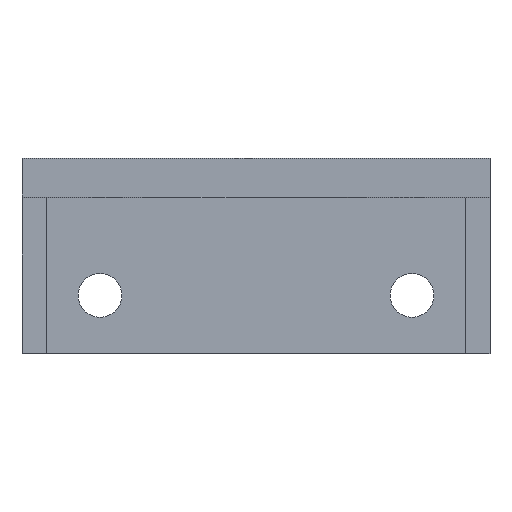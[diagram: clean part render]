
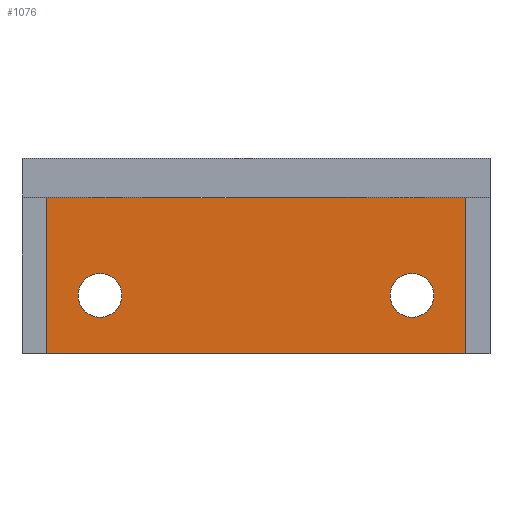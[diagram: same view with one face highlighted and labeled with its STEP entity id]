
A CAD part, top view. The second image highlights one B-rep face of the part: STEP entity #1076.
In plain terms, the highlighted planar face has unit normal (0, 0, 1).
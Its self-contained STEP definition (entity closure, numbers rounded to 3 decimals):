
#44 = PLANE('',#45);
#45 = AXIS2_PLACEMENT_3D('',#46,#47,#48);
#46 = CARTESIAN_POINT('',(-24.,-16.,0.));
#47 = DIRECTION('',(0.,1.,0.));
#48 = DIRECTION('',(0.,0.,1.));
#156 = PLANE('',#157);
#157 = AXIS2_PLACEMENT_3D('',#158,#159,#160);
#158 = CARTESIAN_POINT('',(-24.,0.,0.));
#159 = DIRECTION('',(0.,1.,0.));
#160 = DIRECTION('',(0.,0.,1.));
#245 = VERTEX_POINT('',#246);
#246 = CARTESIAN_POINT('',(-21.5,-16.,4.));
#260 = PLANE('',#261);
#261 = AXIS2_PLACEMENT_3D('',#262,#263,#264);
#262 = CARTESIAN_POINT('',(-21.5,-16.,4.));
#263 = DIRECTION('',(1.,0.,0.));
#264 = DIRECTION('',(0.,0.,1.));
#272 = EDGE_CURVE('',#245,#273,#275,.T.);
#273 = VERTEX_POINT('',#274);
#274 = CARTESIAN_POINT('',(21.5,-16.,4.));
#275 = SURFACE_CURVE('',#276,(#280,#287),.PCURVE_S1.);
#276 = LINE('',#277,#278);
#277 = CARTESIAN_POINT('',(-24.,-16.,4.));
#278 = VECTOR('',#279,1.);
#279 = DIRECTION('',(1.,0.,0.));
#280 = PCURVE('',#44,#281);
#281 = DEFINITIONAL_REPRESENTATION('',(#282),#286);
#282 = LINE('',#283,#284);
#283 = CARTESIAN_POINT('',(4.,0.));
#284 = VECTOR('',#285,1.);
#285 = DIRECTION('',(0.,1.));
#286 = ( GEOMETRIC_REPRESENTATION_CONTEXT(2) 
PARAMETRIC_REPRESENTATION_CONTEXT() REPRESENTATION_CONTEXT('2D SPACE',''
  ) );
#287 = PCURVE('',#288,#293);
#288 = PLANE('',#289);
#289 = AXIS2_PLACEMENT_3D('',#290,#291,#292);
#290 = CARTESIAN_POINT('',(-24.,-16.,4.));
#291 = DIRECTION('',(0.,0.,1.));
#292 = DIRECTION('',(1.,0.,0.));
#293 = DEFINITIONAL_REPRESENTATION('',(#294),#298);
#294 = LINE('',#295,#296);
#295 = CARTESIAN_POINT('',(0.,0.));
#296 = VECTOR('',#297,1.);
#297 = DIRECTION('',(1.,0.));
#298 = ( GEOMETRIC_REPRESENTATION_CONTEXT(2) 
PARAMETRIC_REPRESENTATION_CONTEXT() REPRESENTATION_CONTEXT('2D SPACE',''
  ) );
#316 = PLANE('',#317);
#317 = AXIS2_PLACEMENT_3D('',#318,#319,#320);
#318 = CARTESIAN_POINT('',(21.5,-16.,4.));
#319 = DIRECTION('',(1.,0.,0.));
#320 = DIRECTION('',(0.,0.,1.));
#454 = CYLINDRICAL_SURFACE('',#455,2.25);
#455 = AXIS2_PLACEMENT_3D('',#456,#457,#458);
#456 = CARTESIAN_POINT('',(-16.,-10.,-1.));
#457 = DIRECTION('',(-0.,-0.,-1.));
#458 = DIRECTION('',(1.,0.,0.));
#489 = CYLINDRICAL_SURFACE('',#490,2.25);
#490 = AXIS2_PLACEMENT_3D('',#491,#492,#493);
#491 = CARTESIAN_POINT('',(16.,-10.,-1.));
#492 = DIRECTION('',(-0.,-0.,-1.));
#493 = DIRECTION('',(1.,0.,0.));
#804 = VERTEX_POINT('',#805);
#805 = CARTESIAN_POINT('',(21.5,0.,4.));
#826 = EDGE_CURVE('',#804,#827,#829,.T.);
#827 = VERTEX_POINT('',#828);
#828 = CARTESIAN_POINT('',(-21.5,0.,4.));
#829 = SURFACE_CURVE('',#830,(#834,#840),.PCURVE_S1.);
#830 = LINE('',#831,#832);
#831 = CARTESIAN_POINT('',(-24.,0.,4.));
#832 = VECTOR('',#833,1.);
#833 = DIRECTION('',(-1.,0.,0.));
#834 = PCURVE('',#156,#835);
#835 = DEFINITIONAL_REPRESENTATION('',(#836),#839);
#836 = B_SPLINE_CURVE_WITH_KNOTS('',1,(#837,#838),.UNSPECIFIED.,.F.,.F.,
  (2,2),(-48.,0.),.PIECEWISE_BEZIER_KNOTS.);
#837 = CARTESIAN_POINT('',(4.,48.));
#838 = CARTESIAN_POINT('',(4.,0.));
#839 = ( GEOMETRIC_REPRESENTATION_CONTEXT(2) 
PARAMETRIC_REPRESENTATION_CONTEXT() REPRESENTATION_CONTEXT('2D SPACE',''
  ) );
#840 = PCURVE('',#288,#841);
#841 = DEFINITIONAL_REPRESENTATION('',(#842),#845);
#842 = B_SPLINE_CURVE_WITH_KNOTS('',1,(#843,#844),.UNSPECIFIED.,.F.,.F.,
  (2,2),(-48.,0.),.PIECEWISE_BEZIER_KNOTS.);
#843 = CARTESIAN_POINT('',(48.,16.));
#844 = CARTESIAN_POINT('',(0.,16.));
#845 = ( GEOMETRIC_REPRESENTATION_CONTEXT(2) 
PARAMETRIC_REPRESENTATION_CONTEXT() REPRESENTATION_CONTEXT('2D SPACE',''
  ) );
#1054 = EDGE_CURVE('',#245,#827,#1055,.T.);
#1055 = SURFACE_CURVE('',#1056,(#1060,#1067),.PCURVE_S1.);
#1056 = LINE('',#1057,#1058);
#1057 = CARTESIAN_POINT('',(-21.5,-16.,4.));
#1058 = VECTOR('',#1059,1.);
#1059 = DIRECTION('',(0.,1.,0.));
#1060 = PCURVE('',#260,#1061);
#1061 = DEFINITIONAL_REPRESENTATION('',(#1062),#1066);
#1062 = LINE('',#1063,#1064);
#1063 = CARTESIAN_POINT('',(0.,0.));
#1064 = VECTOR('',#1065,1.);
#1065 = DIRECTION('',(0.,-1.));
#1066 = ( GEOMETRIC_REPRESENTATION_CONTEXT(2) 
PARAMETRIC_REPRESENTATION_CONTEXT() REPRESENTATION_CONTEXT('2D SPACE',''
  ) );
#1067 = PCURVE('',#288,#1068);
#1068 = DEFINITIONAL_REPRESENTATION('',(#1069),#1073);
#1069 = LINE('',#1070,#1071);
#1070 = CARTESIAN_POINT('',(2.5,0.));
#1071 = VECTOR('',#1072,1.);
#1072 = DIRECTION('',(0.,1.));
#1073 = ( GEOMETRIC_REPRESENTATION_CONTEXT(2) 
PARAMETRIC_REPRESENTATION_CONTEXT() REPRESENTATION_CONTEXT('2D SPACE',''
  ) );
#1076 = ADVANCED_FACE('',(#1077,#1103,#1133),#288,.T.);
#1077 = FACE_BOUND('',#1078,.T.);
#1078 = EDGE_LOOP('',(#1079,#1080,#1081,#1102));
#1079 = ORIENTED_EDGE('',*,*,#1054,.F.);
#1080 = ORIENTED_EDGE('',*,*,#272,.T.);
#1081 = ORIENTED_EDGE('',*,*,#1082,.T.);
#1082 = EDGE_CURVE('',#273,#804,#1083,.T.);
#1083 = SURFACE_CURVE('',#1084,(#1088,#1095),.PCURVE_S1.);
#1084 = LINE('',#1085,#1086);
#1085 = CARTESIAN_POINT('',(21.5,-16.,4.));
#1086 = VECTOR('',#1087,1.);
#1087 = DIRECTION('',(0.,1.,0.));
#1088 = PCURVE('',#288,#1089);
#1089 = DEFINITIONAL_REPRESENTATION('',(#1090),#1094);
#1090 = LINE('',#1091,#1092);
#1091 = CARTESIAN_POINT('',(45.5,0.));
#1092 = VECTOR('',#1093,1.);
#1093 = DIRECTION('',(0.,1.));
#1094 = ( GEOMETRIC_REPRESENTATION_CONTEXT(2) 
PARAMETRIC_REPRESENTATION_CONTEXT() REPRESENTATION_CONTEXT('2D SPACE',''
  ) );
#1095 = PCURVE('',#316,#1096);
#1096 = DEFINITIONAL_REPRESENTATION('',(#1097),#1101);
#1097 = LINE('',#1098,#1099);
#1098 = CARTESIAN_POINT('',(0.,0.));
#1099 = VECTOR('',#1100,1.);
#1100 = DIRECTION('',(0.,-1.));
#1101 = ( GEOMETRIC_REPRESENTATION_CONTEXT(2) 
PARAMETRIC_REPRESENTATION_CONTEXT() REPRESENTATION_CONTEXT('2D SPACE',''
  ) );
#1102 = ORIENTED_EDGE('',*,*,#826,.T.);
#1103 = FACE_BOUND('',#1104,.T.);
#1104 = EDGE_LOOP('',(#1105));
#1105 = ORIENTED_EDGE('',*,*,#1106,.T.);
#1106 = EDGE_CURVE('',#1107,#1107,#1109,.T.);
#1107 = VERTEX_POINT('',#1108);
#1108 = CARTESIAN_POINT('',(-13.75,-10.,4.));
#1109 = SURFACE_CURVE('',#1110,(#1115,#1126),.PCURVE_S1.);
#1110 = CIRCLE('',#1111,2.25);
#1111 = AXIS2_PLACEMENT_3D('',#1112,#1113,#1114);
#1112 = CARTESIAN_POINT('',(-16.,-10.,4.));
#1113 = DIRECTION('',(0.,0.,-1.));
#1114 = DIRECTION('',(1.,0.,0.));
#1115 = PCURVE('',#288,#1116);
#1116 = DEFINITIONAL_REPRESENTATION('',(#1117),#1125);
#1117 = ( BOUNDED_CURVE() B_SPLINE_CURVE(2,(#1118,#1119,#1120,#1121,
#1122,#1123,#1124),.UNSPECIFIED.,.T.,.F.) B_SPLINE_CURVE_WITH_KNOTS((1,2
    ,2,2,2,1),(-2.094,0.,2.094,4.189,
6.283,8.378),.UNSPECIFIED.) CURVE() 
GEOMETRIC_REPRESENTATION_ITEM() RATIONAL_B_SPLINE_CURVE((1.,0.5,1.,0.5,
1.,0.5,1.)) REPRESENTATION_ITEM('') );
#1118 = CARTESIAN_POINT('',(10.25,6.));
#1119 = CARTESIAN_POINT('',(10.25,2.103));
#1120 = CARTESIAN_POINT('',(6.875,4.051));
#1121 = CARTESIAN_POINT('',(3.5,6.));
#1122 = CARTESIAN_POINT('',(6.875,7.949));
#1123 = CARTESIAN_POINT('',(10.25,9.897));
#1124 = CARTESIAN_POINT('',(10.25,6.));
#1125 = ( GEOMETRIC_REPRESENTATION_CONTEXT(2) 
PARAMETRIC_REPRESENTATION_CONTEXT() REPRESENTATION_CONTEXT('2D SPACE',''
  ) );
#1126 = PCURVE('',#454,#1127);
#1127 = DEFINITIONAL_REPRESENTATION('',(#1128),#1132);
#1128 = LINE('',#1129,#1130);
#1129 = CARTESIAN_POINT('',(-6.283,-5.));
#1130 = VECTOR('',#1131,1.);
#1131 = DIRECTION('',(1.,-0.));
#1132 = ( GEOMETRIC_REPRESENTATION_CONTEXT(2) 
PARAMETRIC_REPRESENTATION_CONTEXT() REPRESENTATION_CONTEXT('2D SPACE',''
  ) );
#1133 = FACE_BOUND('',#1134,.T.);
#1134 = EDGE_LOOP('',(#1135));
#1135 = ORIENTED_EDGE('',*,*,#1136,.T.);
#1136 = EDGE_CURVE('',#1137,#1137,#1139,.T.);
#1137 = VERTEX_POINT('',#1138);
#1138 = CARTESIAN_POINT('',(18.25,-10.,4.));
#1139 = SURFACE_CURVE('',#1140,(#1145,#1156),.PCURVE_S1.);
#1140 = CIRCLE('',#1141,2.25);
#1141 = AXIS2_PLACEMENT_3D('',#1142,#1143,#1144);
#1142 = CARTESIAN_POINT('',(16.,-10.,4.));
#1143 = DIRECTION('',(0.,0.,-1.));
#1144 = DIRECTION('',(1.,0.,0.));
#1145 = PCURVE('',#288,#1146);
#1146 = DEFINITIONAL_REPRESENTATION('',(#1147),#1155);
#1147 = ( BOUNDED_CURVE() B_SPLINE_CURVE(2,(#1148,#1149,#1150,#1151,
#1152,#1153,#1154),.UNSPECIFIED.,.T.,.F.) B_SPLINE_CURVE_WITH_KNOTS((1,2
    ,2,2,2,1),(-2.094,0.,2.094,4.189,
6.283,8.378),.UNSPECIFIED.) CURVE() 
GEOMETRIC_REPRESENTATION_ITEM() RATIONAL_B_SPLINE_CURVE((1.,0.5,1.,0.5,
1.,0.5,1.)) REPRESENTATION_ITEM('') );
#1148 = CARTESIAN_POINT('',(42.25,6.));
#1149 = CARTESIAN_POINT('',(42.25,2.103));
#1150 = CARTESIAN_POINT('',(38.875,4.051));
#1151 = CARTESIAN_POINT('',(35.5,6.));
#1152 = CARTESIAN_POINT('',(38.875,7.949));
#1153 = CARTESIAN_POINT('',(42.25,9.897));
#1154 = CARTESIAN_POINT('',(42.25,6.));
#1155 = ( GEOMETRIC_REPRESENTATION_CONTEXT(2) 
PARAMETRIC_REPRESENTATION_CONTEXT() REPRESENTATION_CONTEXT('2D SPACE',''
  ) );
#1156 = PCURVE('',#489,#1157);
#1157 = DEFINITIONAL_REPRESENTATION('',(#1158),#1162);
#1158 = LINE('',#1159,#1160);
#1159 = CARTESIAN_POINT('',(-6.283,-5.));
#1160 = VECTOR('',#1161,1.);
#1161 = DIRECTION('',(1.,-0.));
#1162 = ( GEOMETRIC_REPRESENTATION_CONTEXT(2) 
PARAMETRIC_REPRESENTATION_CONTEXT() REPRESENTATION_CONTEXT('2D SPACE',''
  ) );
